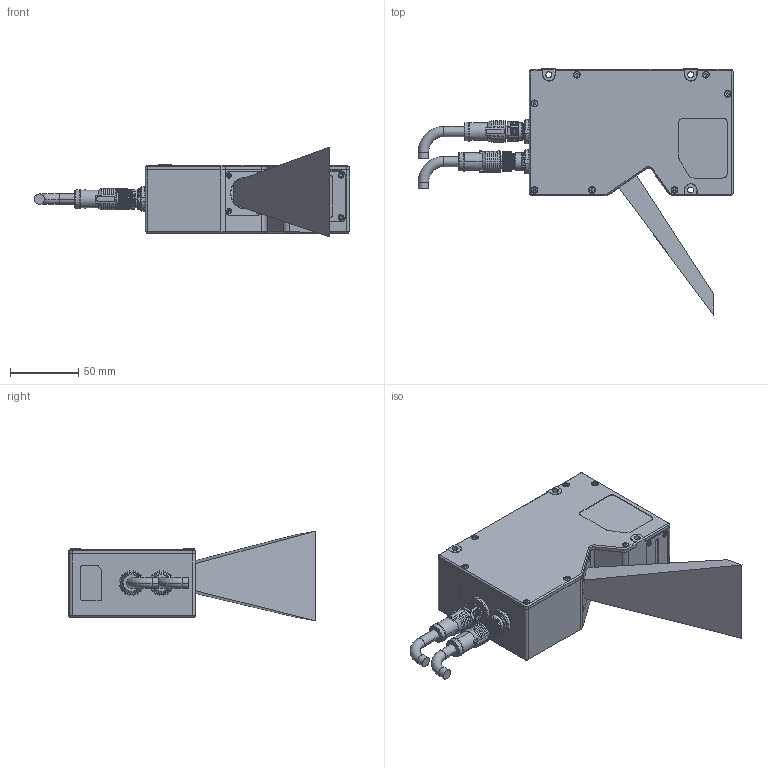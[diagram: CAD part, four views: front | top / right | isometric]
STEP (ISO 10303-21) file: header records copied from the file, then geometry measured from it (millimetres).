
FILE_DESCRIPTION((''),'2;1');
FILE_NAME('MV-DP2080-01P_V2_00001','2026-05-23T11:07:39',('wangjiayi28'),(''),'CREO PARAMETRIC BY PTC INC, 2020044','CREO PARAMETRIC BY PTC INC, 2020044','');
FILE_SCHEMA(('AUTOMOTIVE_DESIGN { 1 0 10303 214 1 1 1 1 }'));
Products named in the file (1): MV-DP2080-01P_V2_00001
Bounding box: 231.25 x 180.8 x 65.8 mm (x, y, z)
Surface area: 75230.6 mm2 (no closed solid volume)
Topology: 0 solids, 57 shells, 1241 faces, 4289 edges, 3053 vertices
Faces by surface type: plane 659, cylinder 372, cone 120, torus 68, bspline 22
Entity records: 64262 total; most frequent: CARTESIAN_POINT 28309, DIRECTION 7416, ORIENTED_EDGE 6736, EDGE_CURVE 4259, VERTEX_POINT 3053, AXIS2_PLACEMENT_3D 2573, VECTOR 2270, LINE 2270
